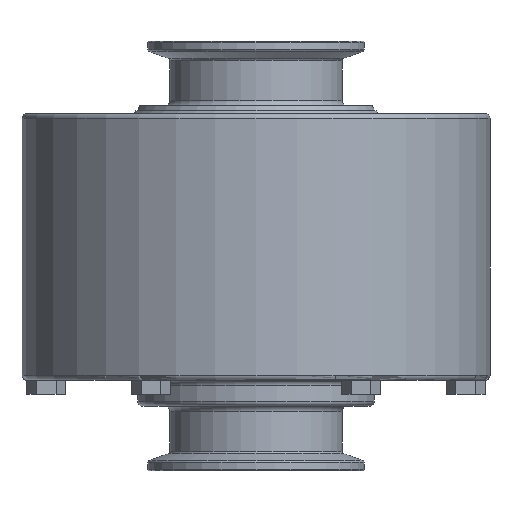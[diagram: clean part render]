
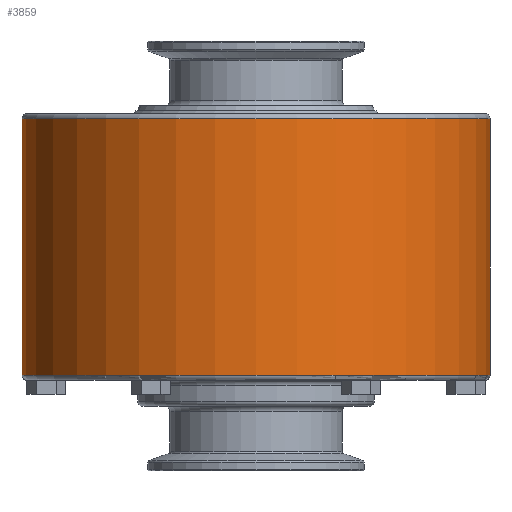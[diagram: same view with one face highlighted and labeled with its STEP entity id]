
A CAD part, front view. The second image highlights one B-rep face of the part: STEP entity #3859.
In plain terms, the highlighted cylindrical face has radius 69.063 mm (diameter 138.125 mm), a partial arc.
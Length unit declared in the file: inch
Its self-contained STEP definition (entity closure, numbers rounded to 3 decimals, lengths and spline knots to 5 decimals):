
#75 = CARTESIAN_POINT ( 'NONE',  ( 0., 0., -3.88 ) ) ;
#76 = DIRECTION ( 'NONE',  ( 0., 0., 1. ) ) ;
#77 = DIRECTION ( 'NONE',  ( 1., 0., 0. ) ) ;
#78 = CARTESIAN_POINT ( 'NONE',  ( 0., 0., -0.9 ) ) ;
#79 = DIRECTION ( 'NONE',  ( 0., 0., -1. ) ) ;
#80 = DIRECTION ( 'NONE',  ( -1., 0., 0. ) ) ;
#943 = ORIENTED_EDGE ( 'NONE', *, *, #4664, .T. ) ;
#944 = ORIENTED_EDGE ( 'NONE', *, *, #4741, .T. ) ;
#945 = ORIENTED_EDGE ( 'NONE', *, *, #4663, .F. ) ;
#946 = ORIENTED_EDGE ( 'NONE', *, *, #4742, .T. ) ;
#1284 = LINE ( 'NONE', #1285, #5155 ) ;
#1285 = CARTESIAN_POINT ( 'NONE',  ( -2.719, 0., 0.93979 ) ) ;
#1286 = DIRECTION ( 'NONE',  ( 0., 0., 1. ) ) ;
#1287 = LINE ( 'NONE', #1289, #5153 ) ;
#1289 = CARTESIAN_POINT ( 'NONE',  ( 2.719, 0., 0.93979 ) ) ;
#1290 = DIRECTION ( 'NONE',  ( 0., 0., 1. ) ) ;
#1499 = AXIS2_PLACEMENT_3D ( 'NONE', #3556, #3550, #3559 ) ;
#3547 = FACE_OUTER_BOUND ( 'NONE', #4099, .T. ) ;
#3550 = DIRECTION ( 'NONE',  ( 0., 0., 1. ) ) ;
#3553 = CYLINDRICAL_SURFACE ( 'NONE', #1499, 2.719 ) ;
#3556 = CARTESIAN_POINT ( 'NONE',  ( 0., 0., 0.93979 ) ) ;
#3559 = DIRECTION ( 'NONE',  ( 1., 0., 0. ) ) ;
#3859 = ADVANCED_FACE ( 'NONE', ( #3547 ), #3553, .T. ) ;
#4099 = EDGE_LOOP ( 'NONE', ( #945, #944, #943, #946 ) ) ;
#4245 = VERTEX_POINT ( 'NONE', #5495 ) ;
#4247 = VERTEX_POINT ( 'NONE', #5496 ) ;
#4263 = VERTEX_POINT ( 'NONE', #5505 ) ;
#4265 = VERTEX_POINT ( 'NONE', #5506 ) ;
#4663 = EDGE_CURVE ( 'NONE', #4247, #4263, #1284, .T. ) ;
#4664 = EDGE_CURVE ( 'NONE', #4245, #4265, #1287, .T. ) ;
#4741 = EDGE_CURVE ( 'NONE', #4247, #4245, #5259, .T. ) ;
#4742 = EDGE_CURVE ( 'NONE', #4265, #4263, #5261, .T. ) ;
#5153 = VECTOR ( 'NONE', #1290, 39.37008 ) ;
#5155 = VECTOR ( 'NONE', #1286, 39.37008 ) ;
#5259 = CIRCLE ( 'NONE', #5262, 2.719 ) ;
#5261 = CIRCLE ( 'NONE', #5264, 2.719 ) ;
#5262 = AXIS2_PLACEMENT_3D ( 'NONE', #75, #76, #77 ) ;
#5264 = AXIS2_PLACEMENT_3D ( 'NONE', #78, #79, #80 ) ;
#5495 = CARTESIAN_POINT ( 'NONE',  ( 2.719, 0., -3.88 ) ) ;
#5496 = CARTESIAN_POINT ( 'NONE',  ( -2.719, 0., -3.88 ) ) ;
#5505 = CARTESIAN_POINT ( 'NONE',  ( -2.719, 0., -0.9 ) ) ;
#5506 = CARTESIAN_POINT ( 'NONE',  ( 2.719, 0., -0.9 ) ) ;
